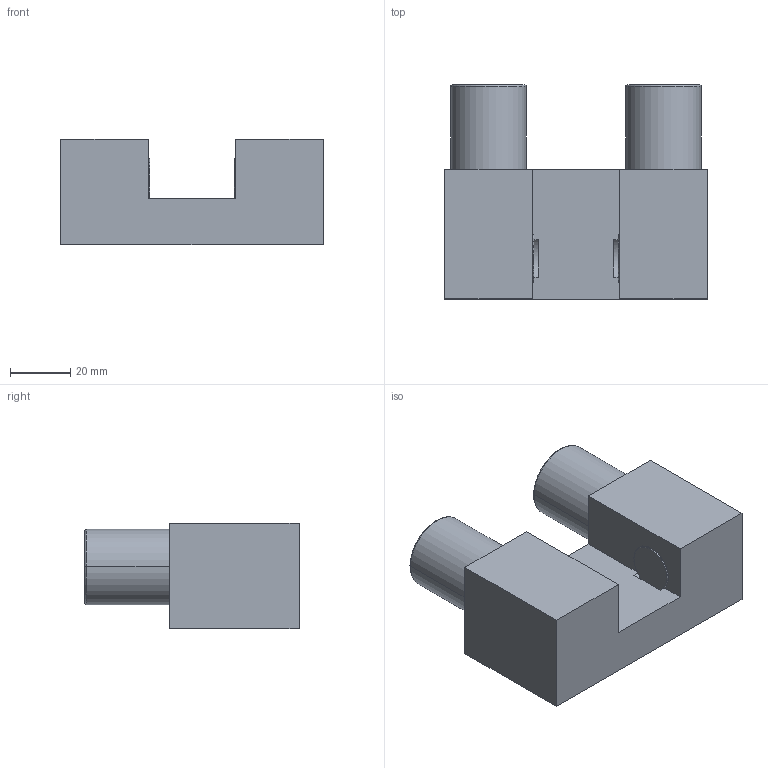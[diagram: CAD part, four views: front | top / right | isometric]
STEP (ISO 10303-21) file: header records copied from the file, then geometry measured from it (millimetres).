
FILE_DESCRIPTION((''),'2;1');
FILE_NAME('FRC30T02SEM-DEM01','2017-04-11T',('pietro.a'),(''),'CREO PARAMETRIC BY PTC INC, 2016050','CREO PARAMETRIC BY PTC INC, 2016050','');
FILE_SCHEMA(('CONFIG_CONTROL_DESIGN'));
Length unit declared in the file: millimetre
Products named in the file (1): FRC30T02SEM-DEM01
Bounding box: 87 x 71 x 35 mm (x, y, z)
Volume: 132468.8 mm3; surface area: 23451 mm2
Topology: 1 solids, 5 shells, 60 faces, 148 edges, 92 vertices
Faces by surface type: cylinder 24, plane 20, torus 8, cone 8
Entity records: 1783 total; most frequent: DIRECTION 338, CARTESIAN_POINT 293, ORIENTED_EDGE 264, EDGE_CURVE 140, AXIS2_PLACEMENT_3D 137, VERTEX_POINT 92, CIRCLE 76, EDGE_LOOP 70
